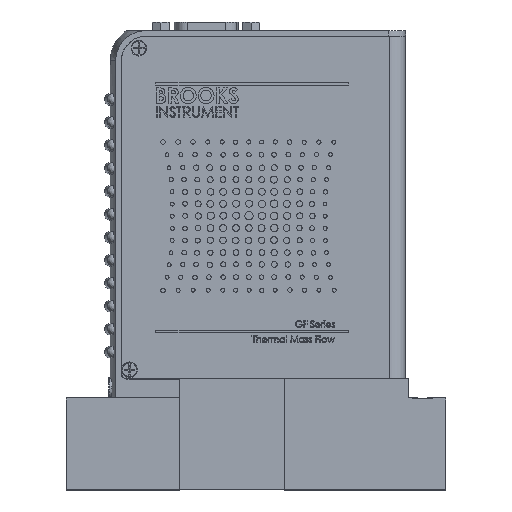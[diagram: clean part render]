
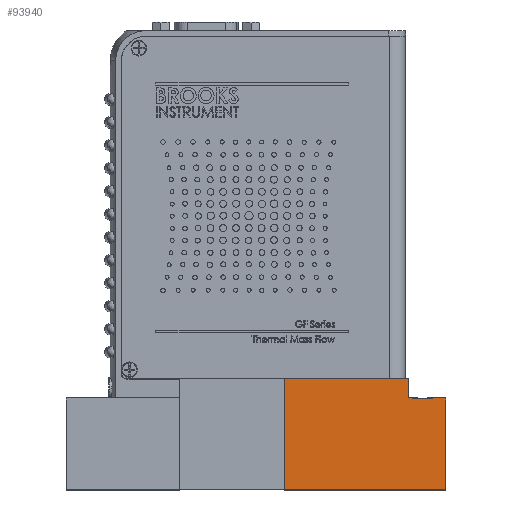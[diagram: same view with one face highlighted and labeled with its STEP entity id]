
A CAD part, top view. The second image highlights one B-rep face of the part: STEP entity #93940.
In plain terms, the highlighted planar face has unit normal (0, 0, 1).
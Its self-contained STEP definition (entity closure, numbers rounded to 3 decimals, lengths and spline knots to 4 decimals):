
#677 = VECTOR ( 'NONE', #56596, 39.3701 ) ;
#754 = DIRECTION ( 'NONE',  ( 1., 0., 0. ) ) ;
#3340 = VECTOR ( 'NONE', #13739, 39.3701 ) ;
#4378 = LINE ( 'NONE', #45779, #103706 ) ;
#6611 = ORIENTED_EDGE ( 'NONE', *, *, #59188, .F. ) ;
#8020 = CARTESIAN_POINT ( 'NONE',  ( 1.4349, 1.0881, 0.56 ) ) ;
#8401 = VERTEX_POINT ( 'NONE', #31661 ) ;
#9009 = VERTEX_POINT ( 'NONE', #82396 ) ;
#13739 = DIRECTION ( 'NONE',  ( 1., 0., 0. ) ) ;
#14577 = EDGE_CURVE ( 'NONE', #49605, #103235, #4378, .T. ) ;
#16855 = VECTOR ( 'NONE', #47956, 39.3701 ) ;
#17583 = PLANE ( 'NONE',  #53440 ) ;
#17892 = ORIENTED_EDGE ( 'NONE', *, *, #14577, .T. ) ;
#18115 = DIRECTION ( 'NONE',  ( -1., 0., 0. ) ) ;
#18498 = VECTOR ( 'NONE', #754, 39.3701 ) ;
#19176 = VECTOR ( 'NONE', #49466, 39.3701 ) ;
#22653 = VERTEX_POINT ( 'NONE', #39409 ) ;
#23673 = VECTOR ( 'NONE', #61325, 39.3701 ) ;
#24752 = CARTESIAN_POINT ( 'NONE',  ( 1.0713, 0.8811, 0.56 ) ) ;
#26089 = ORIENTED_EDGE ( 'NONE', *, *, #77235, .T. ) ;
#28757 = VERTEX_POINT ( 'NONE', #61683 ) ;
#30470 = LINE ( 'NONE', #56062, #677 ) ;
#30966 = EDGE_CURVE ( 'NONE', #56755, #82620, #40691, .T. ) ;
#31661 = CARTESIAN_POINT ( 'NONE',  ( 1.2906, 0.8811, 0.56 ) ) ;
#33802 = ORIENTED_EDGE ( 'NONE', *, *, #95377, .T. ) ;
#33953 = LINE ( 'NONE', #75302, #18498 ) ;
#34071 = ORIENTED_EDGE ( 'NONE', *, *, #30966, .F. ) ;
#34143 = LINE ( 'NONE', #59179, #103564 ) ;
#34338 = DIRECTION ( 'NONE',  ( 1., 0., 0. ) ) ;
#36342 = ORIENTED_EDGE ( 'NONE', *, *, #48141, .F. ) ;
#39409 = CARTESIAN_POINT ( 'NONE',  ( -0.3191, 1.0881, 0.56 ) ) ;
#40362 = LINE ( 'NONE', #106721, #43418 ) ;
#40691 = LINE ( 'NONE', #8020, #43290 ) ;
#43290 = VECTOR ( 'NONE', #73872, 39.3701 ) ;
#43418 = VECTOR ( 'NONE', #34338, 39.3701 ) ;
#45779 = CARTESIAN_POINT ( 'NONE',  ( 1.0259, 0.8811, 0.56 ) ) ;
#46075 = CARTESIAN_POINT ( 'NONE',  ( 1.4349, 0.8811, 0.56 ) ) ;
#46692 = CARTESIAN_POINT ( 'NONE',  ( -0.3191, -0.1189, 0.56 ) ) ;
#47424 = CARTESIAN_POINT ( 'NONE',  ( -0.3191, 1.0881, 0.56 ) ) ;
#47956 = DIRECTION ( 'NONE',  ( 0., -1., 0. ) ) ;
#48141 = EDGE_CURVE ( 'NONE', #9009, #28757, #74988, .T. ) ;
#48432 = CARTESIAN_POINT ( 'NONE',  ( 1.4349, -0.1189, 0.56 ) ) ;
#49271 = ORIENTED_EDGE ( 'NONE', *, *, #92366, .T. ) ;
#49466 = DIRECTION ( 'NONE',  ( 1., 0., 0. ) ) ;
#49605 = VERTEX_POINT ( 'NONE', #55880 ) ;
#50793 = CARTESIAN_POINT ( 'NONE',  ( -0.3191, 1.0881, 0.56 ) ) ;
#53025 = VERTEX_POINT ( 'NONE', #46692 ) ;
#53348 = ORIENTED_EDGE ( 'NONE', *, *, #107326, .T. ) ;
#53440 = AXIS2_PLACEMENT_3D ( 'NONE', #50793, #59470, #18115 ) ;
#54946 = ORIENTED_EDGE ( 'NONE', *, *, #59334, .F. ) ;
#55880 = CARTESIAN_POINT ( 'NONE',  ( 1.0259, 0.8811, 0.56 ) ) ;
#56062 = CARTESIAN_POINT ( 'NONE',  ( 1.0713, 0.8711, 0.56 ) ) ;
#56596 = DIRECTION ( 'NONE',  ( 0., 1., 0. ) ) ;
#56636 = LINE ( 'NONE', #47424, #16855 ) ;
#56755 = VERTEX_POINT ( 'NONE', #58187 ) ;
#58187 = CARTESIAN_POINT ( 'NONE',  ( 1.4349, 0.8811, 0.56 ) ) ;
#59179 = CARTESIAN_POINT ( 'NONE',  ( 1.2906, 0.8711, 0.56 ) ) ;
#59188 = EDGE_CURVE ( 'NONE', #22653, #103235, #81164, .T. ) ;
#59334 = EDGE_CURVE ( 'NONE', #8401, #56755, #40362, .T. ) ;
#59470 = DIRECTION ( 'NONE',  ( 0., 0., -1. ) ) ;
#60478 = CARTESIAN_POINT ( 'NONE',  ( 1.0259, 1.0881, 0.56 ) ) ;
#61325 = DIRECTION ( 'NONE',  ( 1., 0., 0. ) ) ;
#61683 = CARTESIAN_POINT ( 'NONE',  ( 1.2906, 0.8711, 0.56 ) ) ;
#66833 = CARTESIAN_POINT ( 'NONE',  ( -0.3191, 0.8711, 0.56 ) ) ;
#73623 = EDGE_LOOP ( 'NONE', ( #36342, #53348, #82735, #17892, #6611, #33802, #26089, #34071, #54946, #49271 ) ) ;
#73872 = DIRECTION ( 'NONE',  ( 0., -1., 0. ) ) ;
#74966 = DIRECTION ( 'NONE',  ( 0., -1., 0. ) ) ;
#74988 = LINE ( 'NONE', #66833, #19176 ) ;
#75302 = CARTESIAN_POINT ( 'NONE',  ( -0.3191, -0.1189, 0.56 ) ) ;
#77235 = EDGE_CURVE ( 'NONE', #53025, #82620, #33953, .T. ) ;
#79466 = DIRECTION ( 'NONE',  ( 0., 1., 0. ) ) ;
#81164 = LINE ( 'NONE', #89320, #3340 ) ;
#82396 = CARTESIAN_POINT ( 'NONE',  ( 1.0713, 0.8711, 0.56 ) ) ;
#82620 = VERTEX_POINT ( 'NONE', #48432 ) ;
#82735 = ORIENTED_EDGE ( 'NONE', *, *, #92411, .F. ) ;
#85775 = LINE ( 'NONE', #46075, #23673 ) ;
#89320 = CARTESIAN_POINT ( 'NONE',  ( -0.3191, 1.0881, 0.56 ) ) ;
#92366 = EDGE_CURVE ( 'NONE', #8401, #28757, #34143, .T. ) ;
#92411 = EDGE_CURVE ( 'NONE', #49605, #103888, #85775, .T. ) ;
#93144 = FACE_OUTER_BOUND ( 'NONE', #73623, .T. ) ;
#93940 = ADVANCED_FACE ( 'NONE', ( #93144 ), #17583, .F. ) ;
#95377 = EDGE_CURVE ( 'NONE', #22653, #53025, #56636, .T. ) ;
#103235 = VERTEX_POINT ( 'NONE', #60478 ) ;
#103564 = VECTOR ( 'NONE', #74966, 39.3701 ) ;
#103706 = VECTOR ( 'NONE', #79466, 39.3701 ) ;
#103888 = VERTEX_POINT ( 'NONE', #24752 ) ;
#106721 = CARTESIAN_POINT ( 'NONE',  ( 1.4349, 0.8811, 0.56 ) ) ;
#107326 = EDGE_CURVE ( 'NONE', #9009, #103888, #30470, .T. ) ;
